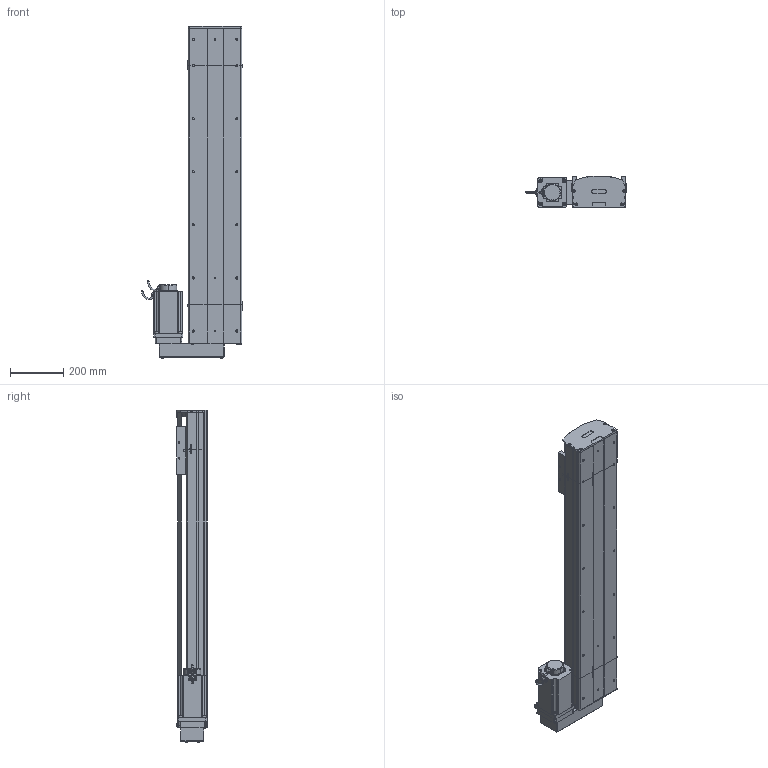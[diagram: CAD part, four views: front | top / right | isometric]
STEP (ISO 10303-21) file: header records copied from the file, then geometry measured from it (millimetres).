
FILE_DESCRIPTION (( 'STEP AP214' ), '1' );
FILE_NAME ('D20 TSH BL S900.STEP', '2010-06-30T08:38:07', ( 'Conseil Régional Haute-Normandie' ), ( 'Conseil Régional Haute-Normandie' ), 'SwSTEP 2.0', 'SolidWorks 2010', '' );
FILE_SCHEMA (( 'AUTOMOTIVE_DESIGN' ));
Length unit declared in the file: millimetre
Products named in the file (35): codeur 110BLDC170A-630x; couvercle tail D20_Default; renvoi  BR_Default; vis M8 L12_Default; clavette; vis M5 L70_Default; Conecteur2_Default; 2 vis M5 L12_Default; Conecteur_Default; plaque de  bout tail D20_Default; corpl tail D20 +100_Default; tail D20 +100_Default; Arbre+rail tail D20; tete d''axe haut D20; tete d''axe bas D20; vis M5 L8 90°_Default; vis M5 L12_Default; guide D20; vis M5 L25_Default; Chariot D20; chariot D20S_Default; corps 110BLDC170A-630x; avant 110BLDC170A-630x; Moteur motionking 110BLDC170A-640x; Plaque racord D20_Default; rail + arbre  D20 S900; couvercle head l D20_Default; D20 TSH BL S900; corpl head MD D20_Default; Arbre+rail head D20; plaque de  bout head BR D20_Default; head BL D20_Default; couvercle D20 S900_Default; corp D20 S900_Default; course D20 L900_Default
Assembly tree (59 placements, depth 4):
  D20 TSH BL S900
    tail D20 +100_Default
      vis M5 L8 90°_Default  x2
      2 vis M5 L12_Default  x4
      vis M5 L25_Default  x2
      corpl tail D20 +100_Default
      couvercle tail D20_Default
      tete d''axe haut D20
      tete d''axe bas D20
      plaque de  bout tail D20_Default
      Arbre+rail tail D20
    head BL D20_Default
      vis M5 L25_Default  x2
      renvoi  BR_Default
      vis M8 L12_Default  x4
      Plaque racord D20_Default
      couvercle head l D20_Default
      vis M5 L70_Default  x4
      2 vis M5 L12_Default  x6
      plaque de  bout head BR D20_Default
      Moteur motionking 110BLDC170A-640x
        avant 110BLDC170A-630x
        clavette
        corps 110BLDC170A-630x
        Conecteur_Default
        Conecteur2_Default
        codeur 110BLDC170A-630x
      corpl head MD D20_Default
      vis M5 L12_Default  x2
      Arbre+rail head D20
    course D20 L900_Default
      corp D20 S900_Default
      rail + arbre  D20 S900
      couvercle D20 S900_Default
    chariot D20S_Default
      vis M5 L12_Default  x4
      guide D20  x2
      Chariot D20
Bounding box: 380 x 115.7 x 1251.7 mm (x, y, z)
Volume: 12480963.5 mm3; surface area: 2585085.3 mm2
Topology: 84 solids, 84 shells, 2336 faces, 5876 edges, 3795 vertices
Faces by surface type: plane 1388, cylinder 660, bspline 136, torus 77, cone 71, sphere 4
Entity records: 76163 total; most frequent: CARTESIAN_POINT 24957, ORIENTED_EDGE 9048, DIRECTION 8519, EDGE_CURVE 4524, VERTEX_POINT 2977, LINE 2977, VECTOR 2977, AXIS2_PLACEMENT_3D 2771
